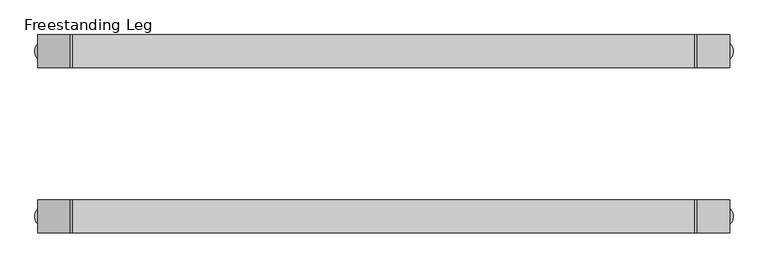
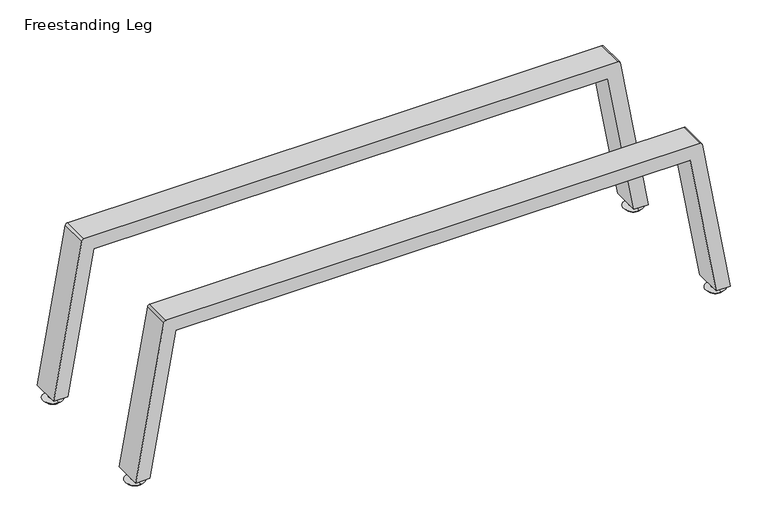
"""IFC4 building model written with IfcOpenShell, lengths in millimetres: furniture geometry, Steelcase Turnstone - Bivi - Storage - Trunk Support : Freestanding Leg."""

import ifcopenshell
import ifcopenshell.guid

model = None  # the IFC model being written
_history = None  # IfcOwnerHistory: only IFC2X3 demands one
_inside = {}  # id of a spatial element -> (the spatial element, [elements in it])
_under = {}  # id of a project, library or spatial element -> (it, [spatial elements below it])
_declared = {}  # id of a project -> (the project, [libraries it declares])
_typed = {}  # id of a type object -> (the type object, [elements of that type])
_made_of = {}  # id of a material, layer set ... -> (it, [elements and type objects made of it])


def new_model(schema):
    """Start an empty IFC model of exactly this schema.

    Asked for "IFC4X3", IfcOpenShell would pick the latest addendum, in which some entities
    have other attributes; the version numbers below select the first issue.
    IFC2X3 requires an IfcOwnerHistory on every rooted entity: one is made here for all.
    """
    global model, _history
    if schema == "IFC4X3":
        model = ifcopenshell.file(schema_version=(4, 3, 0, 0))
    else:
        model = ifcopenshell.file(schema=schema)
    _inside.clear()
    _under.clear()
    _declared.clear()
    _typed.clear()
    _made_of.clear()
    _history = None
    if model.schema == "IFC2X3":
        org = make("IfcOrganization", Name="unknown")
        user = make(
            "IfcPersonAndOrganization",
            ThePerson=make("IfcPerson", FamilyName="unknown"),
            TheOrganization=org,
        )
        app = make(
            "IfcApplication",
            ApplicationDeveloper=org,
            Version="unknown",
            ApplicationFullName="unknown",
            ApplicationIdentifier="unknown",
        )
        _history = make(
            "IfcOwnerHistory",
            OwningUser=user,
            OwningApplication=app,
            ChangeAction="ADDED",
            CreationDate=0,
        )
    return model


def make(cls, **values):
    """One entity of the class cls with the attributes given. An attribute that is None is left unset."""
    return model.create_entity(
        cls, **{name: value for name, value in values.items() if value is not None}
    )


def rooted(cls, **values):
    """An entity with a GlobalId (a new one), such as an element, a storey or a relation."""
    return make(cls, GlobalId=ifcopenshell.guid.new(), OwnerHistory=_history, **values)


def si_unit(unit_type, name, prefix=None):
    """IfcSIUnit, for example si_unit("LENGTHUNIT", "METRE", prefix="MILLI")."""
    return make("IfcSIUnit", UnitType=unit_type, Prefix=prefix, Name=name)


def assignment(units):
    """IfcUnitAssignment: the units of a project."""
    return None if units is None else make("IfcUnitAssignment", Units=units)


def point(xyz):
    """IfcCartesianPoint."""
    return None if xyz is None else make("IfcCartesianPoint", Coordinates=xyz)


def direction(xyz):
    """IfcDirection."""
    return None if xyz is None else make("IfcDirection", DirectionRatios=xyz)


def frame(location, z_axis=None, x_axis=None):
    """IfcAxis2Placement3D, a coordinate frame: its origin and axes. An axis left out is left unset."""
    return make(
        "IfcAxis2Placement3D",
        Location=point(location),
        Axis=direction(z_axis),
        RefDirection=direction(x_axis),
    )


def frame_2d(location, x_axis=None):
    """IfcAxis2Placement2D, a coordinate frame in the plane: its origin and x axis."""
    return make(
        "IfcAxis2Placement2D", Location=point(location), RefDirection=direction(x_axis)
    )


def origin():
    """The frame at (0, 0, 0) with its axes left unset."""
    return frame((0.0, 0.0, 0.0))


def place(relative_to, where):
    """IfcLocalPlacement: puts the frame where relative to a parent placement (None: the world)."""
    return make(
        "IfcLocalPlacement", PlacementRelTo=relative_to, RelativePlacement=where
    )


def context(
    kind, dimensions, precision=None, world=None, true_north=None, identifier=None
):
    """IfcGeometricRepresentationContext, for example the 3D "Model" context."""
    return make(
        "IfcGeometricRepresentationContext",
        ContextIdentifier=identifier,
        ContextType=kind,
        CoordinateSpaceDimension=dimensions,
        Precision=precision,
        WorldCoordinateSystem=world,
        TrueNorth=true_north,
    )


def project(units=None, contexts=None):
    """IfcProject with its units and contexts."""
    return rooted(
        "IfcProject",
        Name="project",
        RepresentationContexts=contexts,
        UnitsInContext=assignment(units),
    )


def spatial(cls, under=None, at=None, **own):
    """A site, building, storey or space (cls), placed at a placement, below another one or the project."""
    s = rooted(cls, ObjectPlacement=at, **own)
    if under is not None:
        _under.setdefault(under.id(), (under, []))[1].append(s)
    return s


def polyline(points):
    """IfcPolyline through the points."""
    return make("IfcPolyline", Points=[point(p) for p in points])


def circle_curve(where, radius):
    """IfcCircle in the frame where."""
    return make("IfcCircle", Position=where, Radius=radius)


def trimmed(basis, trim1, trim2, sense, master):
    """IfcTrimmedCurve: the piece of a basis curve between two trims."""
    return make(
        "IfcTrimmedCurve",
        BasisCurve=basis,
        Trim1=trim1,
        Trim2=trim2,
        SenseAgreement=sense,
        MasterRepresentation=master,
    )


def segment(curve, same_sense, transition):
    """IfcCompositeCurveSegment."""
    return make(
        "IfcCompositeCurveSegment",
        Transition=transition,
        SameSense=same_sense,
        ParentCurve=curve,
    )


def composite_curve(segments, self_intersect=None):
    """IfcCompositeCurve: segments joined end to end."""
    return make("IfcCompositeCurve", Segments=segments, SelfIntersect=self_intersect)


def outline(outer, holes=None, kind="AREA"):
    """IfcArbitraryClosedProfileDef: a profile drawn as a closed curve; with holes, ...WithVoids."""
    if holes is None:
        return make("IfcArbitraryClosedProfileDef", ProfileType=kind, OuterCurve=outer)
    return make(
        "IfcArbitraryProfileDefWithVoids",
        ProfileType=kind,
        OuterCurve=outer,
        InnerCurves=holes,
    )


def extrude(swept, where, along, depth):
    """IfcExtrudedAreaSolid: the profile swept, set in the frame where, extruded along a direction by depth."""
    return make(
        "IfcExtrudedAreaSolid",
        SweptArea=swept,
        Position=where,
        ExtrudedDirection=direction(along),
        Depth=depth,
    )


def shape(context_of_items, identifier, shape_type, items):
    """IfcShapeRepresentation: the items that make up one representation, for example the "Body"."""
    return make(
        "IfcShapeRepresentation",
        ContextOfItems=context_of_items,
        RepresentationIdentifier=identifier,
        RepresentationType=shape_type,
        Items=items,
    )


def source(mapping_origin, context_of_items, identifier, shape_type, items):
    """IfcRepresentationMap: a shape defined once, which mapped items show again and again."""
    return make(
        "IfcRepresentationMap",
        MappingOrigin=mapping_origin,
        MappedRepresentation=shape(context_of_items, identifier, shape_type, items),
    )


def transform(
    local_origin,
    x_axis=None,
    y_axis=None,
    z_axis=None,
    scale=None,
    scale2=None,
    scale3=None,
    uniform=True,
):
    """IfcCartesianTransformationOperator3D, or its non-uniform kind. x_axis, y_axis, z_axis: its Axis1, 2, 3."""
    if uniform:
        return make(
            "IfcCartesianTransformationOperator3D",
            Axis1=direction(x_axis),
            Axis2=direction(y_axis),
            LocalOrigin=point(local_origin),
            Scale=scale,
            Axis3=direction(z_axis),
        )
    return make(
        "IfcCartesianTransformationOperator3DnonUniform",
        Axis1=direction(x_axis),
        Axis2=direction(y_axis),
        LocalOrigin=point(local_origin),
        Scale=scale,
        Axis3=direction(z_axis),
        Scale2=scale2,
        Scale3=scale3,
    )


def mapped(mapping_source, mapping_target):
    """IfcMappedItem: shows the shape of a source again, moved by a transform."""
    return make(
        "IfcMappedItem", MappingSource=mapping_source, MappingTarget=mapping_target
    )


def made_of(thing, what):
    """Note that an element or type object is made of a material, layer set ...; save() writes the relation."""
    if what is not None:
        _made_of.setdefault(what.id(), (what, []))[1].append(thing)
    return thing


def element(
    cls,
    number,
    at=None,
    inside=None,
    cuts=None,
    type_object=None,
    material=None,
    context=None,
    identifier="Body",
    shape_type=None,
    held_by="IfcProductDefinitionShape",
    body=None,
    shapes=None,
    **own,
):
    """One element of the class cls, such as IfcWall. Its Tag is "e" and its number.

    at: its placement. inside: the storey or other place that contains it. cuts: it is an
    opening in that element (IfcRelVoidsElement). A single representation is given by context,
    identifier, shape_type and body (its items); several are given by shapes. held_by: the class
    of the entity that holds the representations. save() writes the other relations.
    """
    e = rooted(cls, Tag="e%d" % number, ObjectPlacement=at, **own)
    if body is not None:
        shapes = [shape(context, identifier, shape_type, body)]
    if shapes is not None:
        e.Representation = make(held_by, Representations=shapes)
    if inside is not None:
        _inside.setdefault(inside.id(), (inside, []))[1].append(e)
    if cuts is not None:
        rooted(
            "IfcRelVoidsElement", RelatingBuildingElement=cuts, RelatedOpeningElement=e
        )
    if type_object is not None:
        _typed.setdefault(type_object.id(), (type_object, []))[1].append(e)
    return made_of(e, material)


def aggregate(whole, parts):
    """IfcRelAggregates: a whole, such as a stair, and the parts it consists of."""
    return rooted("IfcRelAggregates", RelatingObject=whole, RelatedObjects=parts)


def save(model, path):
    """Write the relations noted so far, then the file.

    IfcRelAggregates (storeys below a building ...), IfcRelContainedInSpatialStructure (elements
    in a storey), IfcRelDefinesByType, IfcRelAssociatesMaterial and IfcRelDeclares: one each for
    every whole, place, type object, material and project.
    """
    for whole, parts in _under.values():
        aggregate(whole, parts)
    for where, things in _inside.values():
        rooted(
            "IfcRelContainedInSpatialStructure",
            RelatedElements=things,
            RelatingStructure=where,
        )
    for kind, things in _typed.values():
        rooted("IfcRelDefinesByType", RelatedObjects=things, RelatingType=kind)
    for what, things in _made_of.values():
        rooted("IfcRelAssociatesMaterial", RelatedObjects=things, RelatingMaterial=what)
    for by, libraries in _declared.values():
        rooted("IfcRelDeclares", RelatingContext=by, RelatedDefinitions=libraries)
    model.write(path)


def plane_surface(at):
    """IfcPlane: the flat surface through the origin of the frame at, square to its z axis."""
    return make("IfcPlane", Position=at)


def cylinder_surface(at, radius):
    """IfcCylindricalSurface: all points at the distance radius from the z axis of the frame at."""
    return make("IfcCylindricalSurface", Position=at, Radius=radius)


def revolved_surface(curve, axis_point, axis_direction):
    """IfcSurfaceOfRevolution: the curve turned about the line through axis_point along axis_direction."""
    return make(
        "IfcSurfaceOfRevolution",
        SweptCurve=make("IfcArbitraryOpenProfileDef", ProfileType="CURVE", Curve=curve),
        AxisPosition=make("IfcAxis1Placement", Location=point(axis_point), Axis=direction(axis_direction)),
    )


def advanced_brep(points, edges, surfaces, faces):
    """IfcAdvancedBrep: a solid bounded by faces that lie on surfaces and meet in shared edges.

    An edge is (start, end): straight between two places in points (the first is 0);
    or (start, end, curve); or (start, end, curve, False) where it runs against its curve.
    A face is (place in surfaces, loops), or (place, loops, False) where it looks against
    its surface's normal. A loop lists edges by number (the first is 1), with a minus sign
    where the edge is run from its end to its start. The first loop is the outer one.
    """
    corners = [point(p) for p in points]
    vertices = [make("IfcVertexPoint", VertexGeometry=c) for c in corners]
    made = []
    for start, end, *more in edges:
        made.append(
            make(
                "IfcEdgeCurve",
                EdgeStart=vertices[start],
                EdgeEnd=vertices[end],
                EdgeGeometry=more[0] if more else make("IfcPolyline", Points=[corners[start], corners[end]]),
                SameSense=more[1] if len(more) > 1 else True,
            )
        )
    hull = []
    for where, loops, *sense in faces:
        bounds = []
        for j, loop in enumerate(loops):
            ring = [make("IfcOrientedEdge", EdgeElement=made[abs(k) - 1], Orientation=k > 0) for k in loop]
            bounds.append(
                make(
                    "IfcFaceOuterBound" if j == 0 else "IfcFaceBound",
                    Bound=make("IfcEdgeLoop", EdgeList=ring),
                    Orientation=True,
                )
            )
        hull.append(make("IfcAdvancedFace", Bounds=bounds, FaceSurface=surfaces[where], SameSense=sense[0] if sense else True))
    return make("IfcAdvancedBrep", Outer=make("IfcClosedShell", CfsFaces=hull))


def freestanding_leg_82f1bcce(model_context):
    return source(origin(), model_context, "Body", "SolidModel", [
        advanced_brep(
        [(1285.875, -308.496793, 44.450212), (1285.875, -298.8171513, 44.450212), (1285.875, -298.8171513, 13.9702766), (1285.875, -308.496793, 13.9702766), (1285.875, -295.6185093, 13.9702766), (1285.875, -311.695435, 13.9702766), (1285.875, -295.6185093, 10.160273), (1285.875, -311.695435, 10.160273), (1285.875, -297.7736109, 10.160273), (1285.875, -309.5403333, 10.160273), (1285.875, -296.3429763, 6.2296367), (1285.875, -310.970968, 6.2296367), (1285.875, -286.0843895, 3.4808567), (1285.875, -321.2295548, 3.4808567), (1285.875, -289.5652461, 0.0), (1285.875, -317.7486981, 0.0), (1285.875, -303.6569721, 0.0), (1285.875, -303.6569721, 44.450212)],
        [
            (0, 1, circle_curve(frame((1285.875, -303.6569721, 44.450212), z_axis=(0.0, 0.0, -1.0), x_axis=(0.0, 1.0, 0.0)), 4.8398209)),
            (1, 2),
            (2, 3, circle_curve(frame((1285.875, -303.6569721, 13.9702766), z_axis=(0.0, 0.0, 1.0), x_axis=(0.0, 1.0, 0.0)), 4.8398209)),
            (3, 0),
            (1, 0, circle_curve(frame((1285.875, -303.6569721, 44.450212), z_axis=(0.0, 0.0, -1.0), x_axis=(0.0, 1.0, 0.0)), 4.8398209)),
            (3, 2, circle_curve(frame((1285.875, -303.6569721, 13.9702766), z_axis=(0.0, 0.0, 1.0), x_axis=(0.0, 1.0, 0.0)), 4.8398209)),
            (2, 4),
            (4, 5, circle_curve(frame((1285.875, -303.6569721, 13.9702766), z_axis=(0.0, 0.0, 1.0), x_axis=(0.0, 1.0, 0.0)), 8.0384628)),
            (5, 3),
            (5, 4, circle_curve(frame((1285.875, -303.6569721, 13.9702766), z_axis=(0.0, 0.0, 1.0), x_axis=(0.0, 1.0, 0.0)), 8.0384628)),
            (4, 6),
            (6, 7, circle_curve(frame((1285.875, -303.6569721, 10.160273), z_axis=(0.0, 0.0, 1.0), x_axis=(0.0, 1.0, 0.0)), 8.0384628)),
            (7, 5),
            (7, 6, circle_curve(frame((1285.875, -303.6569721, 10.160273), z_axis=(0.0, 0.0, 1.0), x_axis=(0.0, 1.0, 0.0)), 8.0384628)),
            (6, 8),
            (8, 9, circle_curve(frame((1285.875, -303.6569721, 10.160273), z_axis=(0.0, 0.0, 1.0), x_axis=(0.0, 1.0, 0.0)), 5.8833612)),
            (9, 7),
            (9, 8, circle_curve(frame((1285.875, -303.6569721, 10.160273), z_axis=(0.0, 0.0, 1.0), x_axis=(0.0, 1.0, 0.0)), 5.8833612)),
            (8, 10),
            (10, 11, circle_curve(frame((1285.875, -303.6569721, 6.2296367), z_axis=(0.0, 0.0, 1.0), x_axis=(0.0, 1.0, 0.0)), 7.3139958)),
            (11, 9),
            (11, 10, circle_curve(frame((1285.875, -303.6569721, 6.2296367), z_axis=(0.0, 0.0, 1.0), x_axis=(0.0, 1.0, 0.0)), 7.3139958)),
            (10, 12),
            (12, 13, circle_curve(frame((1285.875, -303.6569721, 3.4808567), z_axis=(0.0, 0.0, 1.0), x_axis=(0.0, 1.0, 0.0)), 17.5725827)),
            (13, 11),
            (13, 12, circle_curve(frame((1285.875, -303.6569721, 3.4808567), z_axis=(0.0, 0.0, 1.0), x_axis=(0.0, 1.0, 0.0)), 17.5725827)),
            (12, 14),
            (14, 15, circle_curve(frame((1285.875, -303.6569721, 0.0), z_axis=(0.0, 0.0, 1.0), x_axis=(0.0, 1.0, 0.0)), 14.091726)),
            (15, 13),
            (15, 14, circle_curve(frame((1285.875, -303.6569721, 0.0), z_axis=(0.0, 0.0, 1.0), x_axis=(0.0, 1.0, 0.0)), 14.091726)),
            (14, 16),
            (16, 15),
            (17, 1),
            (0, 17),
        ],
        [
            cylinder_surface(frame((1285.875, -303.6569721, 44.450212), z_axis=(0.0, 0.0, 1.0), x_axis=(0.0, 1.0, 0.0)), 4.8398209),
            plane_surface(frame((1285.875, -303.6569721, 13.9702766), z_axis=(0.0, 0.0, 1.0), x_axis=(0.0, 1.0, 0.0))),
            cylinder_surface(frame((1285.875, -303.6569721, 44.450212), z_axis=(0.0, 0.0, 1.0), x_axis=(0.0, 1.0, 0.0)), 8.0384628),
            plane_surface(frame((1285.875, -303.6569721, 10.160273), z_axis=(0.0, 0.0, -1.0), x_axis=(0.0, 1.0, 0.0))),
            revolved_surface(polyline([(1285.875, -296.3429763, 6.2296367), (1285.875, -297.7736109, 10.160273)]), (1285.875, -303.6569721, 44.450212), (0.0, 0.0, 1.0)),
            revolved_surface(polyline([(1285.875, -286.0843895, 3.4808567), (1285.875, -296.3429763, 6.2296367)]), (1285.875, -303.6569721, 44.450212), (0.0, 0.0, 1.0)),
            revolved_surface(polyline([(1285.875, -289.5652461, 0.0), (1285.875, -286.0843895, 3.4808567)]), (1285.875, -303.6569721, 44.450212), (0.0, 0.0, 1.0)),
            plane_surface(frame((1285.875, -303.6569721, 0.0), z_axis=(0.0, 0.0, -1.0), x_axis=(0.0, 1.0, 0.0))),
            plane_surface(frame((1285.875, -303.6569721, 44.450212), z_axis=(0.0, 0.0, 1.0), x_axis=(0.0, 1.0, 0.0))),
        ],
        [
            (0, [[1, 2, 3, 4]]),
            (0, [[5, -4, 6, -2]]),
            (1, [[-3, 7, 8, 9]]),
            (1, [[-6, -9, 10, -7]]),
            (2, [[-8, 11, 12, 13]]),
            (2, [[-10, -13, 14, -11]]),
            (3, [[-12, 15, 16, 17]]),
            (3, [[-14, -17, 18, -15]]),
            (4, [[-16, 19, 20, 21]]),
            (4, [[-18, -21, 22, -19]]),
            (5, [[-20, 23, 24, 25]]),
            (5, [[-22, -25, 26, -23]]),
            (6, [[-24, 27, 28, 29]]),
            (6, [[-26, -29, 30, -27]]),
            (7, [[-28, 31, 32]]),
            (7, [[-30, -32, -31]]),
            (8, [[33, -1, 34]]),
            (8, [[-34, -5, -33]]),
        ],
    ),
        advanced_brep(
        [(1285.875, -42.2772419, 13.9702766), (1285.875, -51.9568836, 13.9702766), (1285.875, -51.9568836, 44.450212), (1285.875, -42.2772419, 44.450212), (1285.875, -39.0785999, 13.9702766), (1285.875, -55.1555256, 13.9702766), (1285.875, -39.0785999, 10.160273), (1285.875, -55.1555256, 10.160273), (1285.875, -41.2337015, 10.160273), (1285.875, -53.000424, 10.160273), (1285.875, -39.8030669, 6.2296367), (1285.875, -54.4310586, 6.2296367), (1285.875, -29.5444801, 3.4808567), (1285.875, -64.6896454, 3.4808567), (1285.875, -33.0253368, 0.0), (1285.875, -61.2087888, 0.0), (1285.875, -47.1170628, 0.0), (1285.875, -47.1170628, 44.450212)],
        [
            (0, 1, circle_curve(frame((1285.875, -47.1170628, 13.9702766), z_axis=(0.0, 0.0, 1.0), x_axis=(0.0, -1.0, 0.0)), 4.8398209)),
            (1, 2),
            (2, 3, circle_curve(frame((1285.875, -47.1170628, 44.450212), z_axis=(0.0, 0.0, -1.0), x_axis=(0.0, -1.0, 0.0)), 4.8398209)),
            (3, 0),
            (1, 0, circle_curve(frame((1285.875, -47.1170628, 13.9702766), z_axis=(0.0, 0.0, 1.0), x_axis=(0.0, -1.0, 0.0)), 4.8398209)),
            (3, 2, circle_curve(frame((1285.875, -47.1170628, 44.450212), z_axis=(0.0, 0.0, -1.0), x_axis=(0.0, -1.0, 0.0)), 4.8398209)),
            (4, 5, circle_curve(frame((1285.875, -47.1170628, 13.9702766), z_axis=(0.0, 0.0, 1.0), x_axis=(0.0, -1.0, 0.0)), 8.0384628)),
            (5, 1),
            (0, 4),
            (5, 4, circle_curve(frame((1285.875, -47.1170628, 13.9702766), z_axis=(0.0, 0.0, 1.0), x_axis=(0.0, -1.0, 0.0)), 8.0384628)),
            (6, 7, circle_curve(frame((1285.875, -47.1170628, 10.160273), z_axis=(0.0, 0.0, 1.0), x_axis=(0.0, -1.0, 0.0)), 8.0384628)),
            (7, 5),
            (4, 6),
            (7, 6, circle_curve(frame((1285.875, -47.1170628, 10.160273), z_axis=(0.0, 0.0, 1.0), x_axis=(0.0, -1.0, 0.0)), 8.0384628)),
            (8, 9, circle_curve(frame((1285.875, -47.1170628, 10.160273), z_axis=(0.0, 0.0, 1.0), x_axis=(0.0, -1.0, 0.0)), 5.8833612)),
            (9, 7),
            (6, 8),
            (9, 8, circle_curve(frame((1285.875, -47.1170628, 10.160273), z_axis=(0.0, 0.0, 1.0), x_axis=(0.0, -1.0, 0.0)), 5.8833612)),
            (10, 11, circle_curve(frame((1285.875, -47.1170628, 6.2296367), z_axis=(0.0, 0.0, 1.0), x_axis=(0.0, -1.0, 0.0)), 7.3139958)),
            (11, 9),
            (8, 10),
            (11, 10, circle_curve(frame((1285.875, -47.1170628, 6.2296367), z_axis=(0.0, 0.0, 1.0), x_axis=(0.0, -1.0, 0.0)), 7.3139958)),
            (12, 13, circle_curve(frame((1285.875, -47.1170628, 3.4808567), z_axis=(0.0, 0.0, 1.0), x_axis=(0.0, -1.0, 0.0)), 17.5725827)),
            (13, 11),
            (10, 12),
            (13, 12, circle_curve(frame((1285.875, -47.1170628, 3.4808567), z_axis=(0.0, 0.0, 1.0), x_axis=(0.0, -1.0, 0.0)), 17.5725827)),
            (14, 15, circle_curve(frame((1285.875, -47.1170628, 0.0), z_axis=(0.0, 0.0, 1.0), x_axis=(0.0, -1.0, 0.0)), 14.091726)),
            (15, 13),
            (12, 14),
            (15, 14, circle_curve(frame((1285.875, -47.1170628, 0.0), z_axis=(0.0, 0.0, 1.0), x_axis=(0.0, -1.0, 0.0)), 14.091726)),
            (16, 15),
            (14, 16),
            (2, 17),
            (17, 3),
        ],
        [
            cylinder_surface(frame((1285.875, -47.1170628, 44.450212), z_axis=(0.0, 0.0, -1.0), x_axis=(0.0, -1.0, 0.0)), 4.8398209),
            plane_surface(frame((1285.875, -47.1170628, 13.9702766), z_axis=(0.0, 0.0, 1.0), x_axis=(0.0, -1.0, 0.0))),
            cylinder_surface(frame((1285.875, -47.1170628, 44.450212), z_axis=(0.0, 0.0, -1.0), x_axis=(0.0, -1.0, 0.0)), 8.0384628),
            plane_surface(frame((1285.875, -47.1170628, 10.160273), z_axis=(0.0, 0.0, -1.0), x_axis=(0.0, -1.0, 0.0))),
            revolved_surface(polyline([(1285.875, -53.000424, 10.160273), (1285.875, -54.4310586, 6.2296367)]), (1285.875, -47.1170628, 44.450212), (0.0, 0.0, -1.0)),
            revolved_surface(polyline([(1285.875, -54.4310586, 6.2296367), (1285.875, -64.6896454, 3.4808567)]), (1285.875, -47.1170628, 44.450212), (0.0, 0.0, -1.0)),
            revolved_surface(polyline([(1285.875, -64.6896454, 3.4808567), (1285.875, -61.2087888, 0.0)]), (1285.875, -47.1170628, 44.450212), (0.0, 0.0, -1.0)),
            plane_surface(frame((1285.875, -47.1170628, 0.0), z_axis=(0.0, 0.0, -1.0), x_axis=(0.0, -1.0, 0.0))),
            plane_surface(frame((1285.875, -47.1170628, 44.450212), z_axis=(0.0, 0.0, 1.0), x_axis=(0.0, -1.0, 0.0))),
        ],
        [
            (0, [[1, 2, 3, 4]]),
            (0, [[5, -4, 6, -2]]),
            (1, [[7, 8, -1, 9]]),
            (1, [[10, -9, -5, -8]]),
            (2, [[11, 12, -7, 13]]),
            (2, [[14, -13, -10, -12]]),
            (3, [[15, 16, -11, 17]]),
            (3, [[18, -17, -14, -16]]),
            (4, [[19, 20, -15, 21]]),
            (4, [[22, -21, -18, -20]]),
            (5, [[23, 24, -19, 25]]),
            (5, [[26, -25, -22, -24]]),
            (6, [[27, 28, -23, 29]]),
            (6, [[30, -29, -26, -28]]),
            (7, [[31, -27, 32]]),
            (7, [[-32, -30, -31]]),
            (8, [[-3, 33, 34]]),
            (8, [[-6, -34, -33]]),
        ],
    ),
        advanced_brep(
        [(238.7123225, -308.496793, 44.450212), (238.7123225, -298.8171513, 44.450212), (238.7123225, -298.8171513, 13.9702766), (238.7123225, -308.496793, 13.9702766), (238.7123225, -295.6185093, 13.9702766), (238.7123225, -311.695435, 13.9702766), (238.7123225, -295.6185093, 10.160273), (238.7123225, -311.695435, 10.160273), (238.7123225, -297.7736109, 10.160273), (238.7123225, -309.5403333, 10.160273), (238.7123225, -296.3429763, 6.2296367), (238.7123225, -310.970968, 6.2296367), (238.7123225, -286.0843895, 3.4808567), (238.7123225, -321.2295548, 3.4808567), (238.7123225, -289.5652461, 0.0), (238.7123225, -317.7486981, 0.0), (238.7123225, -303.6569721, 0.0), (238.7123225, -303.6569721, 44.450212)],
        [
            (0, 1, circle_curve(frame((238.7123225, -303.6569721, 44.450212), z_axis=(0.0, 0.0, -1.0), x_axis=(0.0, 1.0, 0.0)), 4.8398209)),
            (1, 2),
            (2, 3, circle_curve(frame((238.7123225, -303.6569721, 13.9702766), z_axis=(0.0, 0.0, 1.0), x_axis=(0.0, 1.0, 0.0)), 4.8398209)),
            (3, 0),
            (1, 0, circle_curve(frame((238.7123225, -303.6569721, 44.450212), z_axis=(0.0, 0.0, -1.0), x_axis=(0.0, 1.0, 0.0)), 4.8398209)),
            (3, 2, circle_curve(frame((238.7123225, -303.6569721, 13.9702766), z_axis=(0.0, 0.0, 1.0), x_axis=(0.0, 1.0, 0.0)), 4.8398209)),
            (2, 4),
            (4, 5, circle_curve(frame((238.7123225, -303.6569721, 13.9702766), z_axis=(0.0, 0.0, 1.0), x_axis=(0.0, 1.0, 0.0)), 8.0384628)),
            (5, 3),
            (5, 4, circle_curve(frame((238.7123225, -303.6569721, 13.9702766), z_axis=(0.0, 0.0, 1.0), x_axis=(0.0, 1.0, 0.0)), 8.0384628)),
            (4, 6),
            (6, 7, circle_curve(frame((238.7123225, -303.6569721, 10.160273), z_axis=(0.0, 0.0, 1.0), x_axis=(0.0, 1.0, 0.0)), 8.0384628)),
            (7, 5),
            (7, 6, circle_curve(frame((238.7123225, -303.6569721, 10.160273), z_axis=(0.0, 0.0, 1.0), x_axis=(0.0, 1.0, 0.0)), 8.0384628)),
            (6, 8),
            (8, 9, circle_curve(frame((238.7123225, -303.6569721, 10.160273), z_axis=(0.0, 0.0, 1.0), x_axis=(0.0, 1.0, 0.0)), 5.8833612)),
            (9, 7),
            (9, 8, circle_curve(frame((238.7123225, -303.6569721, 10.160273), z_axis=(0.0, 0.0, 1.0), x_axis=(0.0, 1.0, 0.0)), 5.8833612)),
            (8, 10),
            (10, 11, circle_curve(frame((238.7123225, -303.6569721, 6.2296367), z_axis=(0.0, 0.0, 1.0), x_axis=(0.0, 1.0, 0.0)), 7.3139958)),
            (11, 9),
            (11, 10, circle_curve(frame((238.7123225, -303.6569721, 6.2296367), z_axis=(0.0, 0.0, 1.0), x_axis=(0.0, 1.0, 0.0)), 7.3139958)),
            (10, 12),
            (12, 13, circle_curve(frame((238.7123225, -303.6569721, 3.4808567), z_axis=(0.0, 0.0, 1.0), x_axis=(0.0, 1.0, 0.0)), 17.5725827)),
            (13, 11),
            (13, 12, circle_curve(frame((238.7123225, -303.6569721, 3.4808567), z_axis=(0.0, 0.0, 1.0), x_axis=(0.0, 1.0, 0.0)), 17.5725827)),
            (12, 14),
            (14, 15, circle_curve(frame((238.7123225, -303.6569721, 0.0), z_axis=(0.0, 0.0, 1.0), x_axis=(0.0, 1.0, 0.0)), 14.091726)),
            (15, 13),
            (15, 14, circle_curve(frame((238.7123225, -303.6569721, 0.0), z_axis=(0.0, 0.0, 1.0), x_axis=(0.0, 1.0, 0.0)), 14.091726)),
            (14, 16),
            (16, 15),
            (17, 1),
            (0, 17),
        ],
        [
            cylinder_surface(frame((238.7123225, -303.6569721, 44.450212), z_axis=(0.0, 0.0, 1.0), x_axis=(0.0, 1.0, 0.0)), 4.8398209),
            plane_surface(frame((238.7123225, -303.6569721, 13.9702766), z_axis=(0.0, 0.0, 1.0), x_axis=(0.0, 1.0, 0.0))),
            cylinder_surface(frame((238.7123225, -303.6569721, 44.450212), z_axis=(0.0, 0.0, 1.0), x_axis=(0.0, 1.0, 0.0)), 8.0384628),
            plane_surface(frame((238.7123225, -303.6569721, 10.160273), z_axis=(0.0, 0.0, -1.0), x_axis=(0.0, 1.0, 0.0))),
            revolved_surface(polyline([(238.7123225, -296.3429763, 6.2296367), (238.7123225, -297.7736109, 10.160273)]), (238.7123225, -303.6569721, 44.450212), (0.0, 0.0, 1.0)),
            revolved_surface(polyline([(238.7123225, -286.0843895, 3.4808567), (238.7123225, -296.3429763, 6.2296367)]), (238.7123225, -303.6569721, 44.450212), (0.0, 0.0, 1.0)),
            revolved_surface(polyline([(238.7123225, -289.5652461, 0.0), (238.7123225, -286.0843895, 3.4808567)]), (238.7123225, -303.6569721, 44.450212), (0.0, 0.0, 1.0)),
            plane_surface(frame((238.7123225, -303.6569721, 0.0), z_axis=(0.0, 0.0, -1.0), x_axis=(0.0, 1.0, 0.0))),
            plane_surface(frame((238.7123225, -303.6569721, 44.450212), z_axis=(0.0, 0.0, 1.0), x_axis=(0.0, 1.0, 0.0))),
        ],
        [
            (0, [[1, 2, 3, 4]]),
            (0, [[5, -4, 6, -2]]),
            (1, [[-3, 7, 8, 9]]),
            (1, [[-6, -9, 10, -7]]),
            (2, [[-8, 11, 12, 13]]),
            (2, [[-10, -13, 14, -11]]),
            (3, [[-12, 15, 16, 17]]),
            (3, [[-14, -17, 18, -15]]),
            (4, [[-16, 19, 20, 21]]),
            (4, [[-18, -21, 22, -19]]),
            (5, [[-20, 23, 24, 25]]),
            (5, [[-22, -25, 26, -23]]),
            (6, [[-24, 27, 28, 29]]),
            (6, [[-26, -29, 30, -27]]),
            (7, [[-28, 31, 32]]),
            (7, [[-30, -32, -31]]),
            (8, [[33, -1, 34]]),
            (8, [[-34, -5, -33]]),
        ],
    ),
        extrude(outline(composite_curve([segment(polyline([(15.5772139, 225.6195271), (15.5772139, 251.4123225), (281.1342207, 298.2371877), (281.1342207, 1225.7628123), (15.5772139, 1272.5876775), (15.5772139, 1298.3826752), (303.7745528, 1247.5657086)]), True, "CONTINUOUS"), segment(trimmed(circle_curve(frame_2d((303.1946459, 1244.2768933)), 3.3395506), [point((303.7745528, 1247.5657086))], [point((306.5341965, 1244.2768933))], False, "CARTESIAN"), True, "CONTINUOUS"), segment(polyline([(306.5341965, 1244.2768933), (306.5341965, 280.2432065)]), True, "CONTINUOUS"), segment(trimmed(circle_curve(frame_2d((302.5774397, 280.2432065)), 3.9567567), [point((306.5341965, 280.2432065))], [point((303.2645233, 276.3465618))], False, "CARTESIAN"), True, "CONTINUOUS"), segment(polyline([(303.2645233, 276.3465618), (15.5772139, 225.6195271)]), True, "CONTINUOUS")], self_intersect=False)), frame((0.0, -329.0571659, 0.0), z_axis=(0.0, 1.0, 0.0), x_axis=(0.0, 0.0, 1.0)), (0.0, 0.0, 1.0), 50.8003876),
        advanced_brep(
        [(238.7123225, -42.2772419, 13.9702766), (238.7123225, -51.9568836, 13.9702766), (238.7123225, -51.9568836, 44.450212), (238.7123225, -42.2772419, 44.450212), (238.7123225, -39.0785999, 13.9702766), (238.7123225, -55.1555256, 13.9702766), (238.7123225, -39.0785999, 10.160273), (238.7123225, -55.1555256, 10.160273), (238.7123225, -41.2337015, 10.160273), (238.7123225, -53.000424, 10.160273), (238.7123225, -39.8030669, 6.2296367), (238.7123225, -54.4310586, 6.2296367), (238.7123225, -29.5444801, 3.4808567), (238.7123225, -64.6896454, 3.4808567), (238.7123225, -33.0253368, 0.0), (238.7123225, -61.2087888, 0.0), (238.7123225, -47.1170628, 0.0), (238.7123225, -47.1170628, 44.450212)],
        [
            (0, 1, circle_curve(frame((238.7123225, -47.1170628, 13.9702766), z_axis=(0.0, 0.0, 1.0), x_axis=(0.0, -1.0, 0.0)), 4.8398209)),
            (1, 2),
            (2, 3, circle_curve(frame((238.7123225, -47.1170628, 44.450212), z_axis=(0.0, 0.0, -1.0), x_axis=(0.0, -1.0, 0.0)), 4.8398209)),
            (3, 0),
            (1, 0, circle_curve(frame((238.7123225, -47.1170628, 13.9702766), z_axis=(0.0, 0.0, 1.0), x_axis=(0.0, -1.0, 0.0)), 4.8398209)),
            (3, 2, circle_curve(frame((238.7123225, -47.1170628, 44.450212), z_axis=(0.0, 0.0, -1.0), x_axis=(0.0, -1.0, 0.0)), 4.8398209)),
            (4, 5, circle_curve(frame((238.7123225, -47.1170628, 13.9702766), z_axis=(0.0, 0.0, 1.0), x_axis=(0.0, -1.0, 0.0)), 8.0384628)),
            (5, 1),
            (0, 4),
            (5, 4, circle_curve(frame((238.7123225, -47.1170628, 13.9702766), z_axis=(0.0, 0.0, 1.0), x_axis=(0.0, -1.0, 0.0)), 8.0384628)),
            (6, 7, circle_curve(frame((238.7123225, -47.1170628, 10.160273), z_axis=(0.0, 0.0, 1.0), x_axis=(0.0, -1.0, 0.0)), 8.0384628)),
            (7, 5),
            (4, 6),
            (7, 6, circle_curve(frame((238.7123225, -47.1170628, 10.160273), z_axis=(0.0, 0.0, 1.0), x_axis=(0.0, -1.0, 0.0)), 8.0384628)),
            (8, 9, circle_curve(frame((238.7123225, -47.1170628, 10.160273), z_axis=(0.0, 0.0, 1.0), x_axis=(0.0, -1.0, 0.0)), 5.8833612)),
            (9, 7),
            (6, 8),
            (9, 8, circle_curve(frame((238.7123225, -47.1170628, 10.160273), z_axis=(0.0, 0.0, 1.0), x_axis=(0.0, -1.0, 0.0)), 5.8833612)),
            (10, 11, circle_curve(frame((238.7123225, -47.1170628, 6.2296367), z_axis=(0.0, 0.0, 1.0), x_axis=(0.0, -1.0, 0.0)), 7.3139958)),
            (11, 9),
            (8, 10),
            (11, 10, circle_curve(frame((238.7123225, -47.1170628, 6.2296367), z_axis=(0.0, 0.0, 1.0), x_axis=(0.0, -1.0, 0.0)), 7.3139958)),
            (12, 13, circle_curve(frame((238.7123225, -47.1170628, 3.4808567), z_axis=(0.0, 0.0, 1.0), x_axis=(0.0, -1.0, 0.0)), 17.5725827)),
            (13, 11),
            (10, 12),
            (13, 12, circle_curve(frame((238.7123225, -47.1170628, 3.4808567), z_axis=(0.0, 0.0, 1.0), x_axis=(0.0, -1.0, 0.0)), 17.5725827)),
            (14, 15, circle_curve(frame((238.7123225, -47.1170628, 0.0), z_axis=(0.0, 0.0, 1.0), x_axis=(0.0, -1.0, 0.0)), 14.091726)),
            (15, 13),
            (12, 14),
            (15, 14, circle_curve(frame((238.7123225, -47.1170628, 0.0), z_axis=(0.0, 0.0, 1.0), x_axis=(0.0, -1.0, 0.0)), 14.091726)),
            (16, 15),
            (14, 16),
            (2, 17),
            (17, 3),
        ],
        [
            cylinder_surface(frame((238.7123225, -47.1170628, 44.450212), z_axis=(0.0, 0.0, -1.0), x_axis=(0.0, -1.0, 0.0)), 4.8398209),
            plane_surface(frame((238.7123225, -47.1170628, 13.9702766), z_axis=(0.0, 0.0, 1.0), x_axis=(0.0, -1.0, 0.0))),
            cylinder_surface(frame((238.7123225, -47.1170628, 44.450212), z_axis=(0.0, 0.0, -1.0), x_axis=(0.0, -1.0, 0.0)), 8.0384628),
            plane_surface(frame((238.7123225, -47.1170628, 10.160273), z_axis=(0.0, 0.0, -1.0), x_axis=(0.0, -1.0, 0.0))),
            revolved_surface(polyline([(238.7123225, -53.000424, 10.160273), (238.7123225, -54.4310586, 6.2296367)]), (238.7123225, -47.1170628, 44.450212), (0.0, 0.0, -1.0)),
            revolved_surface(polyline([(238.7123225, -54.4310586, 6.2296367), (238.7123225, -64.6896454, 3.4808567)]), (238.7123225, -47.1170628, 44.450212), (0.0, 0.0, -1.0)),
            revolved_surface(polyline([(238.7123225, -64.6896454, 3.4808567), (238.7123225, -61.2087888, 0.0)]), (238.7123225, -47.1170628, 44.450212), (0.0, 0.0, -1.0)),
            plane_surface(frame((238.7123225, -47.1170628, 0.0), z_axis=(0.0, 0.0, -1.0), x_axis=(0.0, -1.0, 0.0))),
            plane_surface(frame((238.7123225, -47.1170628, 44.450212), z_axis=(0.0, 0.0, 1.0), x_axis=(0.0, -1.0, 0.0))),
        ],
        [
            (0, [[1, 2, 3, 4]]),
            (0, [[5, -4, 6, -2]]),
            (1, [[7, 8, -1, 9]]),
            (1, [[10, -9, -5, -8]]),
            (2, [[11, 12, -7, 13]]),
            (2, [[14, -13, -10, -12]]),
            (3, [[15, 16, -11, 17]]),
            (3, [[18, -17, -14, -16]]),
            (4, [[19, 20, -15, 21]]),
            (4, [[22, -21, -18, -20]]),
            (5, [[23, 24, -19, 25]]),
            (5, [[26, -25, -22, -24]]),
            (6, [[27, 28, -23, 29]]),
            (6, [[30, -29, -26, -28]]),
            (7, [[31, -27, 32]]),
            (7, [[-32, -30, -31]]),
            (8, [[-3, 33, 34]]),
            (8, [[-6, -34, -33]]),
        ],
    ),
        extrude(outline(composite_curve([segment(polyline([(15.5772139, 225.6195271), (15.5772139, 251.4123225), (281.1342207, 298.2371877), (281.1342207, 1225.7628123), (15.5772139, 1272.5876775), (15.5772139, 1298.3826752), (303.7745528, 1247.5657086)]), True, "CONTINUOUS"), segment(trimmed(circle_curve(frame_2d((303.1946459, 1244.2768933)), 3.3395506), [point((303.7745528, 1247.5657086))], [point((306.5341965, 1244.2768933))], False, "CARTESIAN"), True, "CONTINUOUS"), segment(polyline([(306.5341965, 1244.2768933), (306.5341965, 280.2432065)]), True, "CONTINUOUS"), segment(trimmed(circle_curve(frame_2d((302.5774397, 280.2432065)), 3.9567567), [point((306.5341965, 280.2432065))], [point((303.2645233, 276.3465618))], False, "CARTESIAN"), True, "CONTINUOUS"), segment(polyline([(303.2645233, 276.3465618), (15.5772139, 225.6195271)]), True, "CONTINUOUS")], self_intersect=False)), frame((0.0, -72.5172565, 0.0), z_axis=(0.0, 1.0, 0.0), x_axis=(0.0, 0.0, 1.0)), (0.0, 0.0, 1.0), 50.8003876),
    ])


if __name__ == "__main__":
    model = new_model("IFC4")
    model_context = context("Model", 3, world=origin())
    ifc_project = project(units=[si_unit("LENGTHUNIT", "METRE", prefix="MILLI")], contexts=[model_context])
    site = spatial("IfcSite", under=ifc_project)
    building = spatial("IfcBuilding", under=site)
    placement = place(None, origin())
    freestanding_leg_shape = freestanding_leg_82f1bcce(model_context)
    element("IfcFurniture", 1, ObjectType="Steelcase Turnstone - Bivi - Storage - Trunk Support : Freestanding Leg", at=placement, inside=building, context=model_context, shape_type="MappedRepresentation", body=[
        mapped(freestanding_leg_shape, transform((0.0, 0.0, 0.0), x_axis=(1.0, 0.0, 0.0), y_axis=(0.0, 1.0, 0.0), z_axis=(0.0, 0.0, 1.0))),
    ])
    save(model, "model.ifc")
